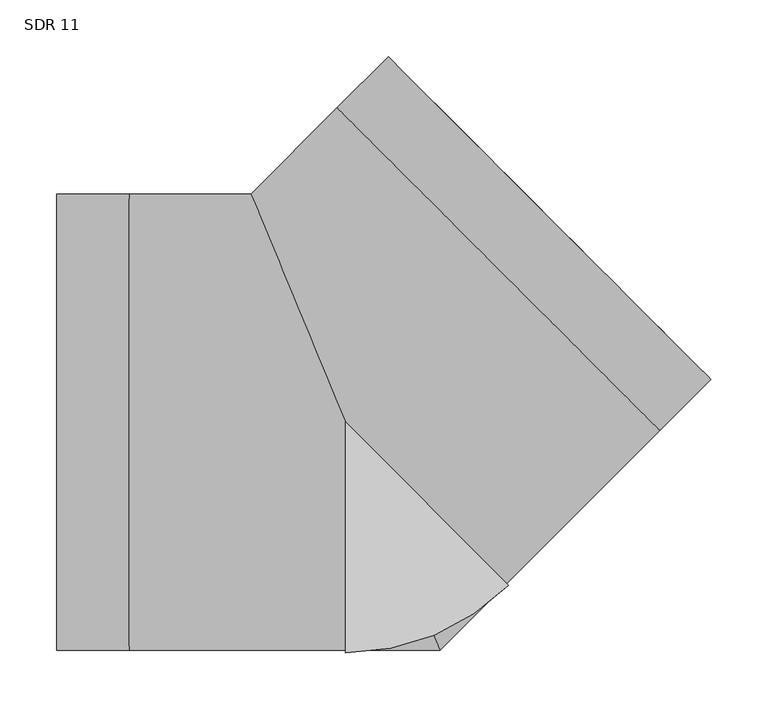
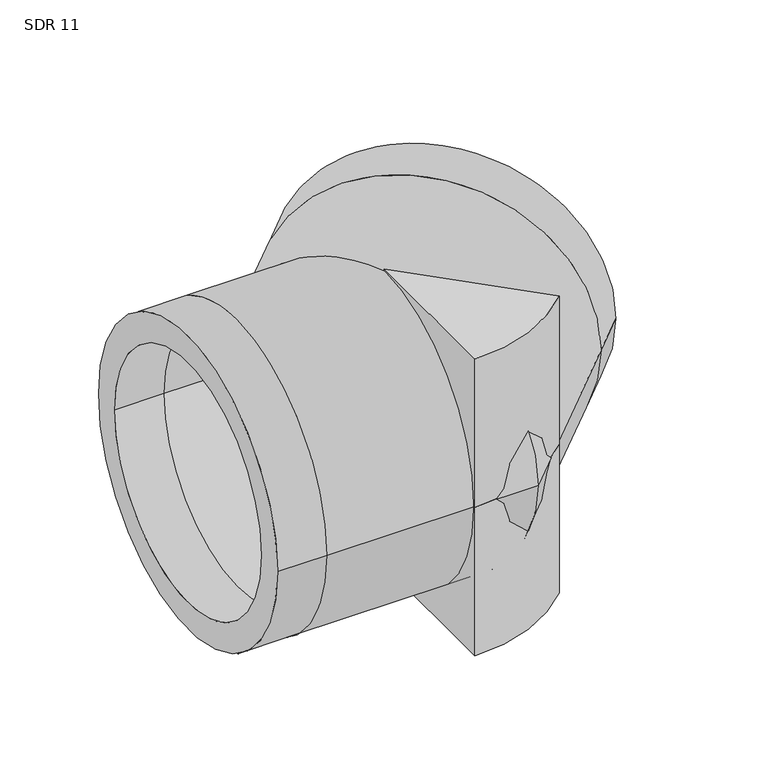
"""IFC4 building model written with IfcOpenShell, lengths in millimetres: pipe fitting geometry, Aquatherm - Elbow Blue BW Segmented : SDR 11."""

from ifc_helpers import new_model, si_unit, point, frame, origin, origin_with_axes, origin_2d, place, context, project, spatial, polyline, circle_curve, ellipse_curve, trimmed, segment, composite_curve, outline, extrude, source, transform, mapped, element, save
from ifc_brep_helpers import plane_surface, cylinder_surface, revolved_surface, advanced_brep


def sdr_11_bdd0d09e(model_context):
    return source(origin(), model_context, "Body", "SolidModel", [
        extrude(outline(composite_curve([segment(polyline([(0.0, -203.2), (0.0, 0.0), (143.6840979, -143.6840979)]), True, "CONTINUOUS"), segment(trimmed(circle_curve(origin_2d(), 203.2), [point((143.6840979, -143.6840979))], [point((0.0, -203.2))], False, "CARTESIAN"), True, "CONTINUOUS")], self_intersect=False)), frame((0.0, 0.0, -203.2), z_axis=(0.0, 0.0, 1.0), x_axis=(1.0, 0.0, 0.0)), (0.0, 0.0, 1.0), 203.2),
        extrude(outline(composite_curve([segment(trimmed(circle_curve(origin_2d(), 203.2), [point((143.6840979, -143.6840979))], [point((0.0, -203.2))], False, "CARTESIAN"), True, "CONTINUOUS"), segment(polyline([(0.0, -203.2), (0.0, 0.0), (143.6840979, -143.6840979)]), True, "CONTINUOUS")], self_intersect=False)), origin_with_axes(), (0.0, 0.0, 1.0), 203.2),
        advanced_brep(
        [(-254.0, -200.66, 0.0), (-254.0, 200.66, 0.0), (-254.0, -164.1763636, 0.0), (-254.0, 164.1763636, 0.0), (321.4931691, 37.7170757, 0.0), (37.7170757, 321.4931691, 0.0), (295.6953425, 63.5149024, 0.0), (63.5149024, 295.6953425, 0.0), (-190.5, -200.66, 0.0), (-190.5, 200.66, 0.0), (-190.5, -164.1763636, 0.0), (-190.5, 164.1763636, 0.0), (83.1160934, -200.66, 0.0), (-83.1160934, 200.66, 0.0), (68.0040764, -164.1763636, 0.0), (-68.0040764, 164.1763636, 0.0), (276.5918885, -7.1842049, 0.0), (-7.1842049, 276.5918885, 0.0), (250.7940619, 18.6136218, 0.0), (18.6136218, 250.7940619, 0.0)],
        [
            (0, 1, circle_curve(frame((-254.0, 0.0, 0.0), z_axis=(-1.0, 0.0, 0.0), x_axis=(0.0, 1.0, 0.0)), 200.66)),
            (1, 0, circle_curve(frame((-254.0, 0.0, 0.0), z_axis=(-1.0, 0.0, 0.0), x_axis=(0.0, 1.0, 0.0)), 200.66)),
            (2, 3, circle_curve(frame((-254.0, 0.0, 0.0), z_axis=(1.0, 0.0, 0.0), x_axis=(0.0, 1.0, 0.0)), 164.1763636)),
            (3, 2, circle_curve(frame((-254.0, 0.0, 0.0), z_axis=(1.0, 0.0, 0.0), x_axis=(0.0, 1.0, 0.0)), 164.1763636)),
            (4, 5, circle_curve(frame((179.6051224, 179.6051224, 0.0), z_axis=(0.7071067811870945, 0.7071067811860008, 0.0), x_axis=(-0.7071067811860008, 0.7071067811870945, 0.0)), 200.66)),
            (5, 4, circle_curve(frame((179.6051224, 179.6051224, 0.0), z_axis=(0.7071067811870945, 0.7071067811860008, 0.0), x_axis=(-0.7071067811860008, 0.7071067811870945, 0.0)), 200.66)),
            (6, 7, circle_curve(frame((179.6051224, 179.6051224, 0.0), z_axis=(-0.7071067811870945, -0.7071067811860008, 0.0), x_axis=(-0.7071067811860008, 0.7071067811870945, 0.0)), 164.1763636)),
            (7, 6, circle_curve(frame((179.6051224, 179.6051224, 0.0), z_axis=(-0.7071067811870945, -0.7071067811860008, 0.0), x_axis=(-0.7071067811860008, 0.7071067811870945, 0.0)), 164.1763636)),
            (0, 8),
            (8, 9, circle_curve(frame((-190.5, 0.0, 0.0), z_axis=(-1.0, 0.0, 0.0), x_axis=(0.0, 1.0, 0.0)), 200.66)),
            (9, 1),
            (9, 8, circle_curve(frame((-190.5, 0.0, 0.0), z_axis=(-1.0, 0.0, 0.0), x_axis=(0.0, 1.0, 0.0)), 200.66)),
            (2, 10),
            (10, 11, circle_curve(frame((-190.5, 0.0, 0.0), z_axis=(1.0, 0.0, 0.0), x_axis=(0.0, 1.0, 0.0)), 164.1763636)),
            (11, 3),
            (11, 10, circle_curve(frame((-190.5, 0.0, 0.0), z_axis=(1.0, 0.0, 0.0), x_axis=(0.0, 1.0, 0.0)), 164.1763636)),
            (8, 12),
            (12, 13, ellipse_curve(frame((0.0, 0.0, 0.0), z_axis=(-0.9238795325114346, -0.3826834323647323, 0.0), x_axis=(-0.38268343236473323, 0.9238795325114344, 0.0)), 217.1928189, 200.66)),
            (13, 9),
            (13, 12, ellipse_curve(frame((0.0, 0.0, 0.0), z_axis=(-0.9238795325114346, -0.3826834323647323, 0.0), x_axis=(-0.38268343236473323, 0.9238795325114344, 0.0)), 217.1928189, 200.66)),
            (10, 14),
            (14, 15, ellipse_curve(frame((0.0, 0.0, 0.0), z_axis=(0.9238795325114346, 0.3826834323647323, 0.0), x_axis=(0.38268343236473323, -0.9238795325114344, 0.0)), 177.7032155, 164.1763636)),
            (15, 11),
            (15, 14, ellipse_curve(frame((0.0, 0.0, 0.0), z_axis=(0.9238795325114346, 0.3826834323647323, 0.0), x_axis=(0.38268343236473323, -0.9238795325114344, 0.0)), 177.7032155, 164.1763636)),
            (12, 16),
            (16, 17, circle_curve(frame((134.7038418, 134.7038418, 0.0), z_axis=(-0.7071067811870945, -0.7071067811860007, 0.0), x_axis=(-0.7071067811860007, 0.7071067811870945, 0.0)), 200.66)),
            (17, 13),
            (17, 16, circle_curve(frame((134.7038418, 134.7038418, 0.0), z_axis=(-0.7071067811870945, -0.7071067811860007, 0.0), x_axis=(-0.7071067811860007, 0.7071067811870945, 0.0)), 200.66)),
            (14, 18),
            (18, 19, circle_curve(frame((134.7038418, 134.7038418, 0.0), z_axis=(0.7071067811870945, 0.7071067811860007, 0.0), x_axis=(-0.7071067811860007, 0.7071067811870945, 0.0)), 164.1763636)),
            (19, 15),
            (19, 18, circle_curve(frame((134.7038418, 134.7038418, 0.0), z_axis=(0.7071067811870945, 0.7071067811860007, 0.0), x_axis=(-0.7071067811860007, 0.7071067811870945, 0.0)), 164.1763636)),
            (16, 4),
            (5, 17),
            (18, 6),
            (7, 19),
        ],
        [
            plane_surface(frame((-254.0, 0.0, 0.0), z_axis=(-1.0, 0.0, 0.0), x_axis=(0.0, 0.0, 1.0))),
            plane_surface(frame((179.6051224, 179.6051224, 0.0), z_axis=(0.7071067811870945, 0.7071067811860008, 0.0), x_axis=(0.0, 0.0, 1.0))),
            cylinder_surface(frame((-254.0, 0.0, 0.0), z_axis=(-1.0, 0.0, 0.0), x_axis=(0.0, 1.0, 0.0)), 200.66),
            revolved_surface(polyline([(-190.5, 164.1763636, 0.0), (-254.0, 164.1763636, 0.0)]), (-254.0, 0.0, 0.0), (1.0, 0.0, 0.0)),
            cylinder_surface(frame((-190.5, 0.0, 0.0), z_axis=(-1.0, 0.0, 0.0), x_axis=(0.0, 1.0, 0.0)), 200.66),
            revolved_surface(polyline([(68.00407644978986, 164.1763636, 0.0), (-190.5, 164.1763636, 0.0)]), (-190.5, 0.0, 0.0), (1.0, 0.0, 0.0)),
            cylinder_surface(frame((0.0, 0.0, 0.0), z_axis=(-0.7071067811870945, -0.7071067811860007, 0.0), x_axis=(-0.7071067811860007, 0.7071067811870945, 0.0)), 200.66),
            revolved_surface(polyline([(18.61362183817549, 250.7940618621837, 0.0), (-164.1763636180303, 68.00407640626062, 0.0)]), (0.0, 0.0, 0.0), (0.7071067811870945, 0.7071067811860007, 0.0)),
            cylinder_surface(frame((134.7038418, 134.7038418, 0.0), z_axis=(-0.7071067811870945, -0.7071067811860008, 0.0), x_axis=(-0.7071067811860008, 0.7071067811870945, 0.0)), 200.66),
            revolved_surface(polyline([(63.514902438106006, 295.6953424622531, 0.0), (18.613621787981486, 250.79406181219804, 0.0)]), (134.7038418, 134.7038418, 0.0), (0.7071067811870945, 0.7071067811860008, 0.0)),
        ],
        [
            (0, [[1, 2], [3, 4]]),
            (1, [[5, 6], [7, 8]]),
            (2, [[-1, 9, 10, 11]]),
            (2, [[-2, -11, 12, -9]]),
            (3, [[-3, 13, 14, 15]]),
            (3, [[-4, -15, 16, -13]]),
            (4, [[-10, 17, 18, 19]]),
            (4, [[-12, -19, 20, -17]]),
            (5, [[-14, 21, 22, 23]]),
            (5, [[-16, -23, 24, -21]]),
            (6, [[-18, 25, 26, 27]]),
            (6, [[-20, -27, 28, -25]]),
            (7, [[-22, 29, 30, 31]]),
            (7, [[-24, -31, 32, -29]]),
            (8, [[-26, 33, -6, 34]]),
            (8, [[-28, -34, -5, -33]]),
            (9, [[-30, 35, -8, 36]]),
            (9, [[-32, -36, -7, -35]]),
        ],
    ),
    ])


if __name__ == "__main__":
    model = new_model("IFC4")
    model_context = context("Model", 3, world=origin())
    ifc_project = project(units=[si_unit("LENGTHUNIT", "METRE", prefix="MILLI")], contexts=[model_context])
    site = spatial("IfcSite", under=ifc_project)
    building = spatial("IfcBuilding", under=site)
    placement = place(None, origin())
    sdr_11_shape = sdr_11_bdd0d09e(model_context)
    element("IfcPipeFitting", 1, ObjectType="Aquatherm - Elbow Blue BW Segmented : SDR 11", at=placement, inside=building, context=model_context, shape_type="MappedRepresentation", body=[
        mapped(sdr_11_shape, transform((0.0, 0.0, 0.0), x_axis=(1.0, 0.0, 0.0), y_axis=(0.0, 1.0, 0.0), z_axis=(0.0, 0.0, 1.0))),
    ])
    save(model, "model.ifc")
